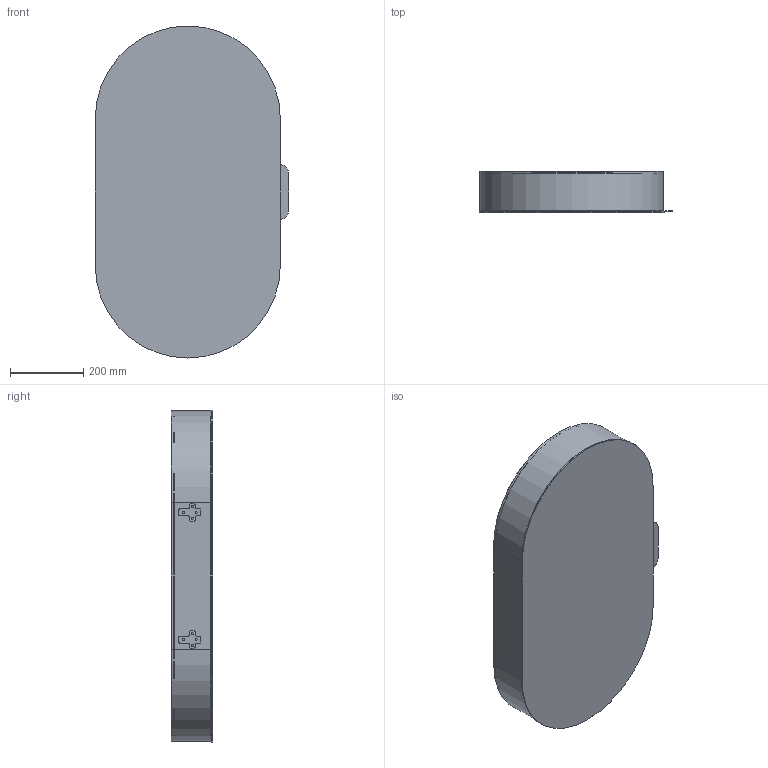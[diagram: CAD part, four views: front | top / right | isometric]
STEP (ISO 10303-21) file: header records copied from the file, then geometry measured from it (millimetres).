
FILE_DESCRIPTION(/* description */ (''),/* implementation_level */ '2;1');
FILE_NAME(/* name */ 'SPECCHIO CONTENITORE OVALE',/* time_stamp */ '2026-07-31T14:47:50+02:00',/* author */ (''),/* organization */ (''),/* preprocessor_version */ 'ST-DEVELOPER v19.2',/* originating_system */ 'Rhino 8.33',/* authorisation */ '');
FILE_SCHEMA (('CONFIG_CONTROL_DESIGN'));
Length unit declared in the file: millimetre
Products named in the file (1): Document
Bounding box: 527 x 112 x 904 mm (x, y, z)
Surface area: 3242150.5 mm2 (no closed solid volume)
Topology: 0 solids, 182 shells, 198 faces, 992 edges, 960 vertices
Faces by surface type: plane 126, cylinder 72
Entity records: 9920 total; most frequent: CARTESIAN_POINT 3338, ORIENTED_EDGE 1024, EDGE_CURVE 992, VERTEX_POINT 960, DIRECTION 714, B_SPLINE_CURVE_WITH_KNOTS 624, AXIS2_PLACEMENT_3D 456, CIRCLE 256
